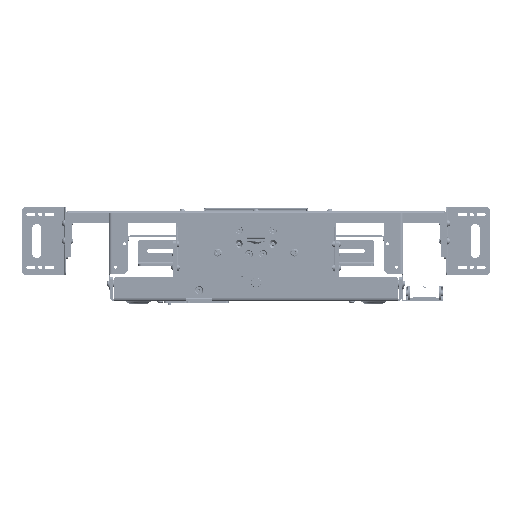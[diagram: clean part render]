
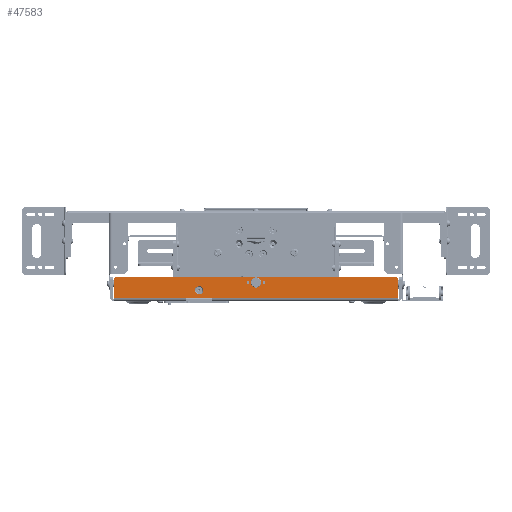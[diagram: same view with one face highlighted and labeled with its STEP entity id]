
A CAD part, front view. The second image highlights one B-rep face of the part: STEP entity #47583.
In plain terms, the highlighted planar face has unit normal (0, -1, 0).
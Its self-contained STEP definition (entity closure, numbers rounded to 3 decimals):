
#337 = VECTOR ( 'NONE', #98088, 1000. ) ;
#1130 = CARTESIAN_POINT ( 'NONE',  ( 13.5, -6.2, 34.325 ) ) ;
#1949 = CARTESIAN_POINT ( 'NONE',  ( -119.1, -6.2, 6.2 ) ) ;
#2910 = CIRCLE ( 'NONE', #31558, 8.6 ) ;
#3754 = FACE_BOUND ( 'NONE', #85381, .T. ) ;
#3769 = CARTESIAN_POINT ( 'NONE',  ( -119.1, -6.2, 6.2 ) ) ;
#4442 = CARTESIAN_POINT ( 'NONE',  ( 241.3, -6.2, 6.2 ) ) ;
#6703 = VECTOR ( 'NONE', #30293, 1000. ) ;
#7310 = AXIS2_PLACEMENT_3D ( 'NONE', #21535, #82394, #44519 ) ;
#7726 = EDGE_CURVE ( 'NONE', #85441, #85441, #67831, .T. ) ;
#8927 = LINE ( 'NONE', #1949, #12801 ) ;
#10492 = CIRCLE ( 'NONE', #80568, 7. ) ;
#10991 = CARTESIAN_POINT ( 'NONE',  ( -236.3, -6.2, 42. ) ) ;
#11202 = VERTEX_POINT ( 'NONE', #15020 ) ;
#12801 = VECTOR ( 'NONE', #61810, 1000. ) ;
#13362 = CARTESIAN_POINT ( 'NONE',  ( 236.3, -6.2, 37. ) ) ;
#13429 = DIRECTION ( 'NONE',  ( 0., 0., -1. ) ) ;
#14137 = DIRECTION ( 'NONE',  ( -1., 0., 0. ) ) ;
#14359 = VERTEX_POINT ( 'NONE', #10991 ) ;
#15020 = CARTESIAN_POINT ( 'NONE',  ( 236.3, -6.2, 42. ) ) ;
#15396 = CARTESIAN_POINT ( 'NONE',  ( 0., -6.2, 32. ) ) ;
#16430 = ORIENTED_EDGE ( 'NONE', *, *, #73507, .T. ) ;
#16885 = VECTOR ( 'NONE', #28054, 1000. ) ;
#17218 = FACE_OUTER_BOUND ( 'NONE', #89654, .T. ) ;
#18516 = VERTEX_POINT ( 'NONE', #93959 ) ;
#19208 = PLANE ( 'NONE',  #70958 ) ;
#19312 = LINE ( 'NONE', #60645, #337 ) ;
#20125 = CARTESIAN_POINT ( 'NONE',  ( 241.3, -6.2, 42. ) ) ;
#20427 = VERTEX_POINT ( 'NONE', #81296 ) ;
#21027 = VERTEX_POINT ( 'NONE', #3769 ) ;
#21535 = CARTESIAN_POINT ( 'NONE',  ( 13.5, -6.2, 32. ) ) ;
#22319 = EDGE_CURVE ( 'NONE', #20427, #20427, #2910, .T. ) ;
#23104 = AXIS2_PLACEMENT_3D ( 'NONE', #13362, #43830, #50833 ) ;
#24219 = CARTESIAN_POINT ( 'NONE',  ( -241.3, -6.2, 42. ) ) ;
#24732 = EDGE_CURVE ( 'NONE', #64286, #64455, #76972, .T. ) ;
#25176 = CARTESIAN_POINT ( 'NONE',  ( -241.3, -6.2, 42. ) ) ;
#26901 = ORIENTED_EDGE ( 'NONE', *, *, #7726, .T. ) ;
#28054 = DIRECTION ( 'NONE',  ( -1., 0., 0. ) ) ;
#29571 = ORIENTED_EDGE ( 'NONE', *, *, #83140, .T. ) ;
#29875 = CARTESIAN_POINT ( 'NONE',  ( -236.3, -6.2, 37. ) ) ;
#30252 = EDGE_CURVE ( 'NONE', #14359, #18516, #83371, .T. ) ;
#30293 = DIRECTION ( 'NONE',  ( 0., 0., -1. ) ) ;
#31558 = AXIS2_PLACEMENT_3D ( 'NONE', #15396, #45864, #76283 ) ;
#34205 = FACE_BOUND ( 'NONE', #96689, .T. ) ;
#34518 = ORIENTED_EDGE ( 'NONE', *, *, #44269, .T. ) ;
#36902 = ORIENTED_EDGE ( 'NONE', *, *, #52174, .F. ) ;
#37603 = CARTESIAN_POINT ( 'NONE',  ( -241.3, -6.2, 6.2 ) ) ;
#41278 = ORIENTED_EDGE ( 'NONE', *, *, #30252, .T. ) ;
#42165 = DIRECTION ( 'NONE',  ( 0., 1., 0. ) ) ;
#43322 = VECTOR ( 'NONE', #89435, 1000. ) ;
#43830 = DIRECTION ( 'NONE',  ( 0., -1., 0. ) ) ;
#44269 = EDGE_CURVE ( 'NONE', #68422, #68422, #86356, .T. ) ;
#44519 = DIRECTION ( 'NONE',  ( 0., 0., 1. ) ) ;
#45864 = DIRECTION ( 'NONE',  ( 0., 1., 0. ) ) ;
#46361 = CARTESIAN_POINT ( 'NONE',  ( -13.5, -6.2, 32. ) ) ;
#47583 = ADVANCED_FACE ( 'NONE', ( #63604, #94552, #3754, #17218, #34205 ), #19208, .F. ) ;
#47986 = ORIENTED_EDGE ( 'NONE', *, *, #60600, .T. ) ;
#50145 = VERTEX_POINT ( 'NONE', #65088 ) ;
#50833 = DIRECTION ( 'NONE',  ( 0., 0., 1. ) ) ;
#50959 = ORIENTED_EDGE ( 'NONE', *, *, #59216, .F. ) ;
#51333 = DIRECTION ( 'NONE',  ( 0., -1., 0. ) ) ;
#52174 = EDGE_CURVE ( 'NONE', #50145, #50145, #10492, .T. ) ;
#59216 = EDGE_CURVE ( 'NONE', #64455, #21027, #8927, .T. ) ;
#59772 = DIRECTION ( 'NONE',  ( 0., 0., 1. ) ) ;
#60165 = LINE ( 'NONE', #24219, #6703 ) ;
#60600 = EDGE_CURVE ( 'NONE', #64286, #88791, #97919, .T. ) ;
#60645 = CARTESIAN_POINT ( 'NONE',  ( -241.3, -6.2, 6.2 ) ) ;
#61462 = CARTESIAN_POINT ( 'NONE',  ( -241.3, -6.2, 6.2 ) ) ;
#61810 = DIRECTION ( 'NONE',  ( -1., 0., 0. ) ) ;
#63604 = FACE_BOUND ( 'NONE', #77670, .T. ) ;
#64286 = VERTEX_POINT ( 'NONE', #4442 ) ;
#64455 = VERTEX_POINT ( 'NONE', #84677 ) ;
#65088 = CARTESIAN_POINT ( 'NONE',  ( -96.6, -6.2, 11.7 ) ) ;
#66915 = LINE ( 'NONE', #96382, #16885 ) ;
#67831 = CIRCLE ( 'NONE', #7310, 2.325 ) ;
#68422 = VERTEX_POINT ( 'NONE', #89866 ) ;
#70067 = VERTEX_POINT ( 'NONE', #61462 ) ;
#70958 = AXIS2_PLACEMENT_3D ( 'NONE', #25176, #42165, #79579 ) ;
#73507 = EDGE_CURVE ( 'NONE', #11202, #14359, #66915, .T. ) ;
#76283 = DIRECTION ( 'NONE',  ( 0., 0., 1. ) ) ;
#76760 = DIRECTION ( 'NONE',  ( 0., 0., 1. ) ) ;
#76972 = LINE ( 'NONE', #37603, #85546 ) ;
#77670 = EDGE_LOOP ( 'NONE', ( #34518 ) ) ;
#78068 = EDGE_CURVE ( 'NONE', #18516, #70067, #60165, .T. ) ;
#78605 = AXIS2_PLACEMENT_3D ( 'NONE', #29875, #51333, #59772 ) ;
#79579 = DIRECTION ( 'NONE',  ( 0., 0., 1. ) ) ;
#80016 = AXIS2_PLACEMENT_3D ( 'NONE', #46361, #84242, #76760 ) ;
#80457 = CIRCLE ( 'NONE', #23104, 5. ) ;
#80568 = AXIS2_PLACEMENT_3D ( 'NONE', #97258, #81794, #13429 ) ;
#80579 = EDGE_LOOP ( 'NONE', ( #26901 ) ) ;
#81296 = CARTESIAN_POINT ( 'NONE',  ( 0., -6.2, 40.6 ) ) ;
#81794 = DIRECTION ( 'NONE',  ( 0., -1., 0. ) ) ;
#82394 = DIRECTION ( 'NONE',  ( 0., 1., 0. ) ) ;
#83085 = ORIENTED_EDGE ( 'NONE', *, *, #22319, .T. ) ;
#83140 = EDGE_CURVE ( 'NONE', #88791, #11202, #80457, .T. ) ;
#83371 = CIRCLE ( 'NONE', #78605, 5. ) ;
#83483 = CARTESIAN_POINT ( 'NONE',  ( 241.3, -6.2, 37. ) ) ;
#84242 = DIRECTION ( 'NONE',  ( 0., 1., 0. ) ) ;
#84677 = CARTESIAN_POINT ( 'NONE',  ( -74.1, -6.2, 6.2 ) ) ;
#85381 = EDGE_LOOP ( 'NONE', ( #83085 ) ) ;
#85441 = VERTEX_POINT ( 'NONE', #1130 ) ;
#85546 = VECTOR ( 'NONE', #14137, 1000. ) ;
#86356 = CIRCLE ( 'NONE', #80016, 2.325 ) ;
#87720 = ORIENTED_EDGE ( 'NONE', *, *, #24732, .F. ) ;
#88791 = VERTEX_POINT ( 'NONE', #83483 ) ;
#89435 = DIRECTION ( 'NONE',  ( 0., 0., 1. ) ) ;
#89654 = EDGE_LOOP ( 'NONE', ( #47986, #29571, #16430, #41278, #92484, #94942, #50959, #87720 ) ) ;
#89866 = CARTESIAN_POINT ( 'NONE',  ( -13.5, -6.2, 34.325 ) ) ;
#92484 = ORIENTED_EDGE ( 'NONE', *, *, #78068, .T. ) ;
#92720 = EDGE_CURVE ( 'NONE', #21027, #70067, #19312, .T. ) ;
#93959 = CARTESIAN_POINT ( 'NONE',  ( -241.3, -6.2, 37. ) ) ;
#94552 = FACE_BOUND ( 'NONE', #80579, .T. ) ;
#94942 = ORIENTED_EDGE ( 'NONE', *, *, #92720, .F. ) ;
#96382 = CARTESIAN_POINT ( 'NONE',  ( -241.3, -6.2, 42. ) ) ;
#96689 = EDGE_LOOP ( 'NONE', ( #36902 ) ) ;
#97258 = CARTESIAN_POINT ( 'NONE',  ( -96.6, -6.2, 18.7 ) ) ;
#97919 = LINE ( 'NONE', #20125, #43322 ) ;
#98088 = DIRECTION ( 'NONE',  ( -1., 0., 0. ) ) ;
